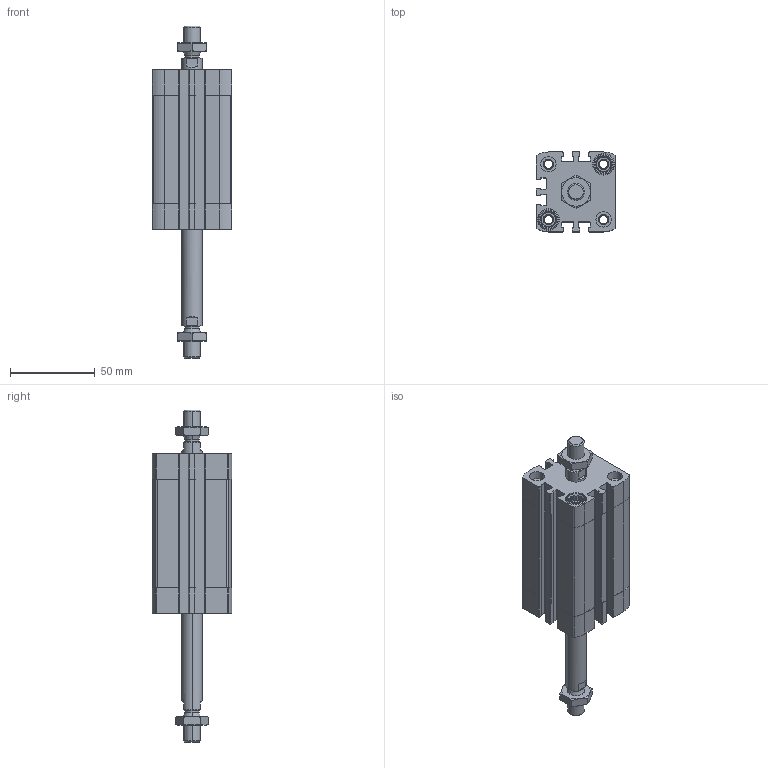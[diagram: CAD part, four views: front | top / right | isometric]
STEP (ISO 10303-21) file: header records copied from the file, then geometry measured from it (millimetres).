
FILE_DESCRIPTION (( 'STEP AP203' ), '1' );
FILE_NAME ('CCN32-50-P.STEP', '2020-06-22T18:47:50', ( '' ), ( '' ), 'SwSTEP 2.0', 'SolidWorks 2019', '' );
FILE_SCHEMA (( 'CONFIG_CONTROL_DESIGN' ));
Length unit declared in the file: millimetre
Products named in the file (1): CCN32-50-P
Bounding box: 47 x 47 x 195.5 mm (x, y, z)
Volume: 147086.5 mm3; surface area: 57098.6 mm2
Topology: 4 solids, 4 shells, 536 faces, 1416 edges, 920 vertices
Faces by surface type: plane 288, cylinder 180, cone 60, torus 8
Entity records: 17371 total; most frequent: CARTESIAN_POINT 3741, DIRECTION 2898, ORIENTED_EDGE 2832, EDGE_CURVE 1416, AXIS2_PLACEMENT_3D 1069, VERTEX_POINT 920, VECTOR 760, LINE 760
